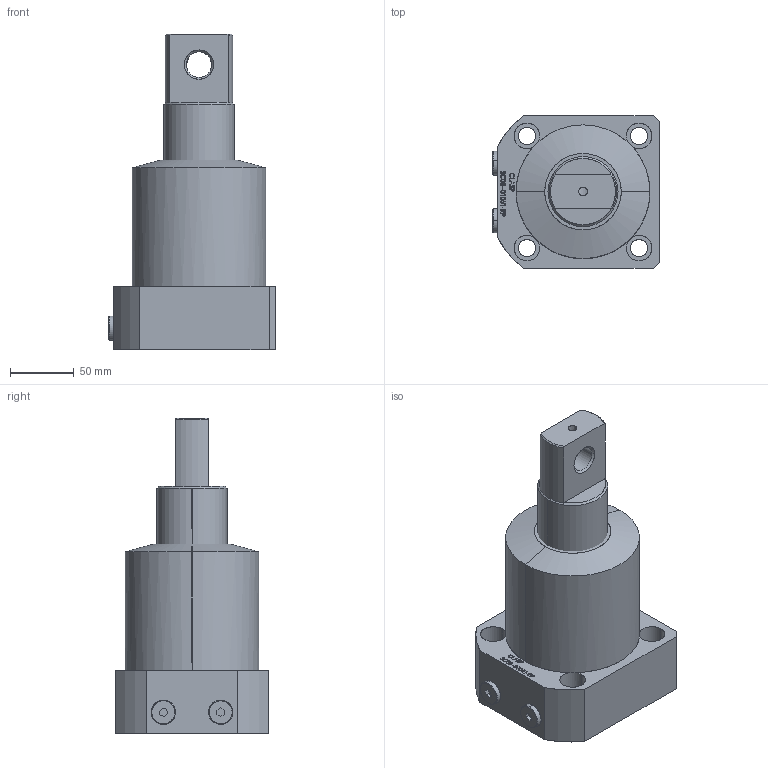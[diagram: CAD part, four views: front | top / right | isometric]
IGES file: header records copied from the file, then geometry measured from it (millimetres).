
Start section: SolidWorks IGES file using analytic representation for surfaces
Global section: file name: D:\karuppas\Clasp\3D model\SWING CYLINDER\Bottom Mounting swing cylinder-P type\SC08-01051-RP\SC08-01051-RP.IGS; native system: SolidWorks 2017; preprocessor: SolidWorks 2017; author: pc; date: 220708.223956; units: millimetre
Bounding box: 131 x 120 x 248 mm (x, y, z)
Surface area: 122892 mm2 (no closed solid volume)
Topology: 0 solids, 0 shells, 347 faces, 5388 edges, 5388 vertices
Faces by surface type: bspline 277, revolution 70
